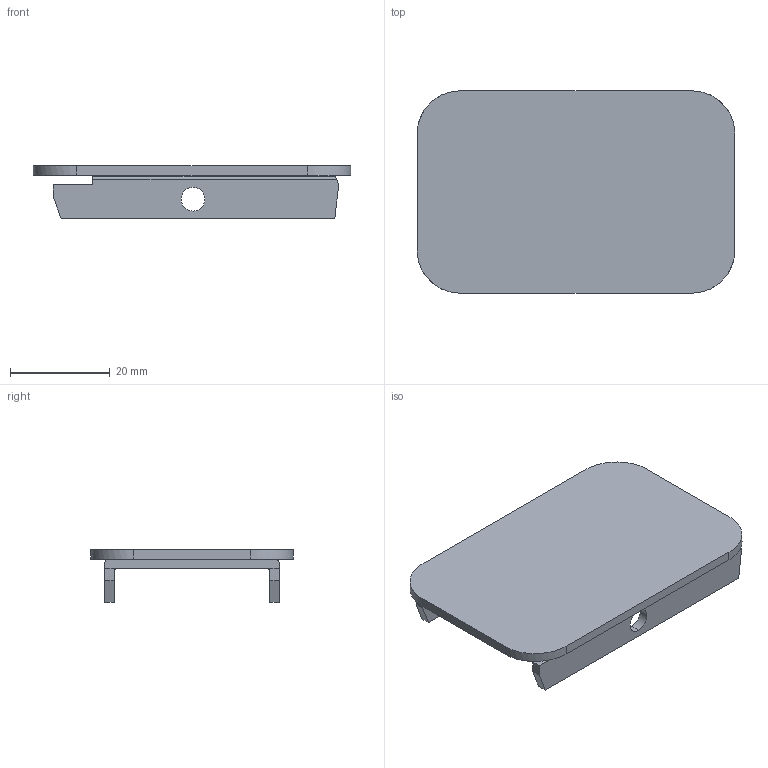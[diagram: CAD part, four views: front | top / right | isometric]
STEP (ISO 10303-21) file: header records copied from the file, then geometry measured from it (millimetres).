
FILE_DESCRIPTION(('TurboCAD Mac Pro'),'Build 980');
FILE_NAME('P5580W.stp',' ',(''),(''),'ACIS Interop','IMSI','TurboCAD Mac Pro BY IMSI, INCORPORATED');
FILE_SCHEMA(('automotive_design'));
Length unit declared in the file: inch
Products named in the file (1): 1
Bounding box: 63.5 x 40.49 x 10.56 mm (x, y, z)
Volume: 9389.2 mm3; surface area: 7461.8 mm2
Topology: 1 solids, 1 shells, 49 faces, 138 edges, 92 vertices
Faces by surface type: plane 29, bspline 12, cylinder 8
Entity records: 2064 total; most frequent: CARTESIAN_POINT 436, ORIENTED_EDGE 276, DIRECTION 206, EDGE_CURVE 138, LINE 98, VECTOR 98, VERTEX_POINT 92, AXIS2_PLACEMENT_3D 54
